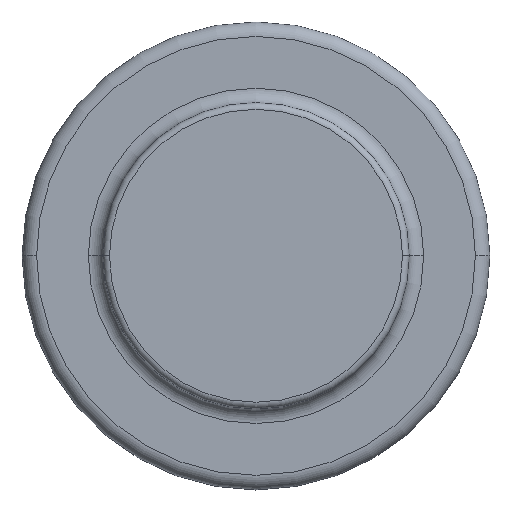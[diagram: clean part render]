
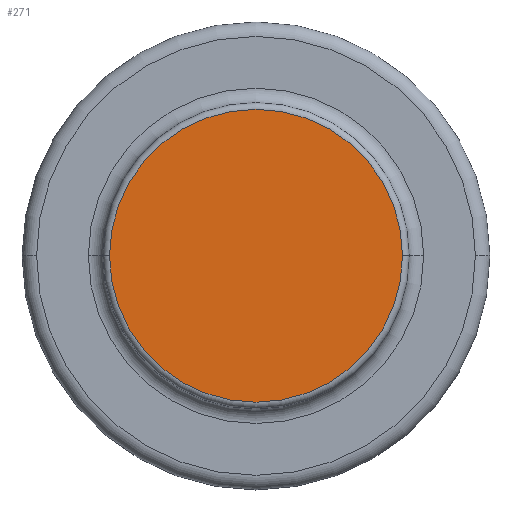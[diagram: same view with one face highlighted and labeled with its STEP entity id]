
A CAD part, top view. The second image highlights one B-rep face of the part: STEP entity #271.
In plain terms, the highlighted planar face has unit normal (0, 0, 1).
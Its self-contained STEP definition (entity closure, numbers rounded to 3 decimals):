
#2 = AXIS2_PLACEMENT_3D ( 'NONE', #191, #442, #277 ) ;
#5 = DIRECTION ( 'NONE',  ( 0., 0., 1. ) ) ;
#29 = AXIS2_PLACEMENT_3D ( 'NONE', #202, #5, #526 ) ;
#86 = DIRECTION ( 'NONE',  ( -1., 0., 0. ) ) ;
#191 = CARTESIAN_POINT ( 'NONE',  ( 0., 0., 28.575 ) ) ;
#199 = CARTESIAN_POINT ( 'NONE',  ( -33.401, 0., 28.575 ) ) ;
#202 = CARTESIAN_POINT ( 'NONE',  ( 0., 0., 28.575 ) ) ;
#205 = CIRCLE ( 'NONE', #2, 33.401 ) ;
#256 = VERTEX_POINT ( 'NONE', #199 ) ;
#264 = DIRECTION ( 'NONE',  ( 0., 0., -1. ) ) ;
#271 = ADVANCED_FACE ( 'NONE', ( #632 ), #719, .F. ) ;
#277 = DIRECTION ( 'NONE',  ( 1., 0., 0. ) ) ;
#347 = EDGE_CURVE ( 'NONE', #483, #256, #673, .T. ) ;
#442 = DIRECTION ( 'NONE',  ( 0., 0., 1. ) ) ;
#470 = EDGE_LOOP ( 'NONE', ( #736, #773 ) ) ;
#483 = VERTEX_POINT ( 'NONE', #681 ) ;
#508 = AXIS2_PLACEMENT_3D ( 'NONE', #772, #264, #86 ) ;
#526 = DIRECTION ( 'NONE',  ( 1., 0., 0. ) ) ;
#609 = EDGE_CURVE ( 'NONE', #256, #483, #205, .T. ) ;
#632 = FACE_OUTER_BOUND ( 'NONE', #470, .T. ) ;
#673 = CIRCLE ( 'NONE', #29, 33.401 ) ;
#681 = CARTESIAN_POINT ( 'NONE',  ( 33.401, 0., 28.575 ) ) ;
#719 = PLANE ( 'NONE',  #508 ) ;
#736 = ORIENTED_EDGE ( 'NONE', *, *, #347, .T. ) ;
#772 = CARTESIAN_POINT ( 'NONE',  ( 0., 0., 28.575 ) ) ;
#773 = ORIENTED_EDGE ( 'NONE', *, *, #609, .T. ) ;
